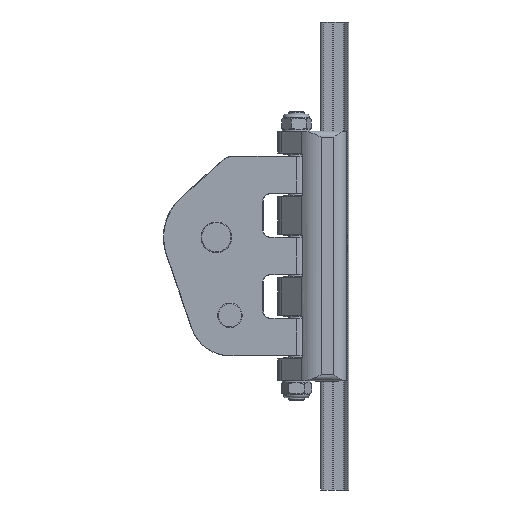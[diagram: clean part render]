
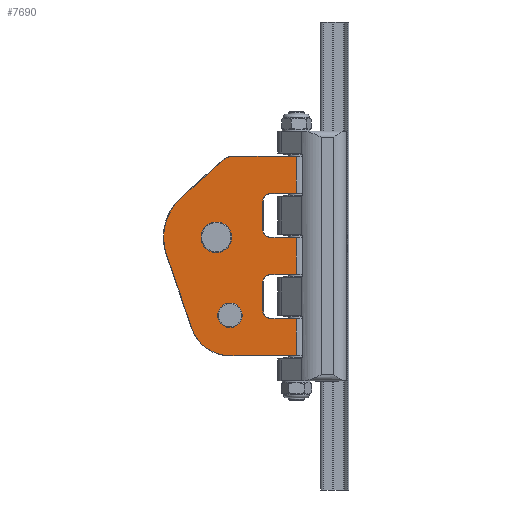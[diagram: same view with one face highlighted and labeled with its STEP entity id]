
A CAD part, left-side view. The second image highlights one B-rep face of the part: STEP entity #7690.
In plain terms, the highlighted planar face has unit normal (-1, 0, 0).
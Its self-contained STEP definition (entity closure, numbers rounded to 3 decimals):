
#310=FACE_BOUND('',#988,.T.);
#311=FACE_BOUND('',#989,.T.);
#358=PLANE('',#8160);
#541=FACE_OUTER_BOUND('',#987,.T.);
#987=EDGE_LOOP('',(#5123,#5124,#5125,#5126,#5127,#5128,#5129,#5130,#5131,
#5132,#5133,#5134,#5135,#5136,#5137,#5138,#5139,#5140,#5141,#5142));
#988=EDGE_LOOP('',(#5143,#5144));
#989=EDGE_LOOP('',(#5145,#5146));
#1481=LINE('',#11530,#2097);
#1482=LINE('',#11534,#2098);
#1483=LINE('',#11538,#2099);
#1484=LINE('',#11540,#2100);
#1485=LINE('',#11542,#2101);
#1486=LINE('',#11546,#2102);
#1487=LINE('',#11550,#2103);
#1488=LINE('',#11552,#2104);
#1489=LINE('',#11554,#2105);
#1490=LINE('',#11558,#2106);
#1491=LINE('',#11562,#2107);
#1492=LINE('',#11566,#2108);
#1493=LINE('',#11567,#2109);
#2097=VECTOR('',#9083,10.);
#2098=VECTOR('',#9086,10.);
#2099=VECTOR('',#9089,10.);
#2100=VECTOR('',#9090,10.);
#2101=VECTOR('',#9091,10.);
#2102=VECTOR('',#9094,10.);
#2103=VECTOR('',#9097,10.);
#2104=VECTOR('',#9098,10.);
#2105=VECTOR('',#9099,10.);
#2106=VECTOR('',#9102,10.);
#2107=VECTOR('',#9105,10.);
#2108=VECTOR('',#9108,10.);
#2109=VECTOR('',#9109,10.);
#2714=CIRCLE('',#8161,5.2);
#2715=CIRCLE('',#8162,5.2);
#2716=CIRCLE('',#8163,5.2);
#2717=CIRCLE('',#8164,5.2);
#2718=CIRCLE('',#8165,9.8);
#2719=CIRCLE('',#8166,33.8);
#2720=CIRCLE('',#8167,25.8);
#2721=CIRCLE('',#8168,7.425);
#2722=CIRCLE('',#8169,7.425);
#2723=CIRCLE('',#8170,9.425);
#2724=CIRCLE('',#8171,9.425);
#3165=VERTEX_POINT('',#11528);
#3166=VERTEX_POINT('',#11529);
#3167=VERTEX_POINT('',#11531);
#3168=VERTEX_POINT('',#11533);
#3169=VERTEX_POINT('',#11535);
#3170=VERTEX_POINT('',#11537);
#3171=VERTEX_POINT('',#11539);
#3172=VERTEX_POINT('',#11541);
#3173=VERTEX_POINT('',#11543);
#3174=VERTEX_POINT('',#11545);
#3175=VERTEX_POINT('',#11547);
#3176=VERTEX_POINT('',#11549);
#3177=VERTEX_POINT('',#11551);
#3178=VERTEX_POINT('',#11553);
#3179=VERTEX_POINT('',#11555);
#3180=VERTEX_POINT('',#11557);
#3181=VERTEX_POINT('',#11559);
#3182=VERTEX_POINT('',#11561);
#3183=VERTEX_POINT('',#11563);
#3184=VERTEX_POINT('',#11565);
#3185=VERTEX_POINT('',#11568);
#3186=VERTEX_POINT('',#11569);
#3187=VERTEX_POINT('',#11572);
#3188=VERTEX_POINT('',#11573);
#3925=EDGE_CURVE('',#3165,#3166,#1481,.T.);
#3926=EDGE_CURVE('',#3167,#3165,#2714,.T.);
#3927=EDGE_CURVE('',#3168,#3167,#1482,.T.);
#3928=EDGE_CURVE('',#3169,#3168,#2715,.T.);
#3929=EDGE_CURVE('',#3170,#3169,#1483,.T.);
#3930=EDGE_CURVE('',#3170,#3171,#1484,.T.);
#3931=EDGE_CURVE('',#3172,#3171,#1485,.T.);
#3932=EDGE_CURVE('',#3173,#3172,#2716,.T.);
#3933=EDGE_CURVE('',#3174,#3173,#1486,.T.);
#3934=EDGE_CURVE('',#3175,#3174,#2717,.T.);
#3935=EDGE_CURVE('',#3176,#3175,#1487,.T.);
#3936=EDGE_CURVE('',#3176,#3177,#1488,.T.);
#3937=EDGE_CURVE('',#3178,#3177,#1489,.T.);
#3938=EDGE_CURVE('',#3179,#3178,#2718,.T.);
#3939=EDGE_CURVE('',#3180,#3179,#1490,.T.);
#3940=EDGE_CURVE('',#3181,#3180,#2719,.T.);
#3941=EDGE_CURVE('',#3182,#3181,#1491,.T.);
#3942=EDGE_CURVE('',#3183,#3182,#2720,.T.);
#3943=EDGE_CURVE('',#3184,#3183,#1492,.T.);
#3944=EDGE_CURVE('',#3184,#3166,#1493,.T.);
#3945=EDGE_CURVE('',#3185,#3186,#2721,.T.);
#3946=EDGE_CURVE('',#3186,#3185,#2722,.T.);
#3947=EDGE_CURVE('',#3187,#3188,#2723,.T.);
#3948=EDGE_CURVE('',#3188,#3187,#2724,.T.);
#5123=ORIENTED_EDGE('',*,*,#3925,.F.);
#5124=ORIENTED_EDGE('',*,*,#3926,.F.);
#5125=ORIENTED_EDGE('',*,*,#3927,.F.);
#5126=ORIENTED_EDGE('',*,*,#3928,.F.);
#5127=ORIENTED_EDGE('',*,*,#3929,.F.);
#5128=ORIENTED_EDGE('',*,*,#3930,.T.);
#5129=ORIENTED_EDGE('',*,*,#3931,.F.);
#5130=ORIENTED_EDGE('',*,*,#3932,.F.);
#5131=ORIENTED_EDGE('',*,*,#3933,.F.);
#5132=ORIENTED_EDGE('',*,*,#3934,.F.);
#5133=ORIENTED_EDGE('',*,*,#3935,.F.);
#5134=ORIENTED_EDGE('',*,*,#3936,.T.);
#5135=ORIENTED_EDGE('',*,*,#3937,.F.);
#5136=ORIENTED_EDGE('',*,*,#3938,.F.);
#5137=ORIENTED_EDGE('',*,*,#3939,.F.);
#5138=ORIENTED_EDGE('',*,*,#3940,.F.);
#5139=ORIENTED_EDGE('',*,*,#3941,.F.);
#5140=ORIENTED_EDGE('',*,*,#3942,.F.);
#5141=ORIENTED_EDGE('',*,*,#3943,.F.);
#5142=ORIENTED_EDGE('',*,*,#3944,.T.);
#5143=ORIENTED_EDGE('',*,*,#3945,.T.);
#5144=ORIENTED_EDGE('',*,*,#3946,.T.);
#5145=ORIENTED_EDGE('',*,*,#3947,.T.);
#5146=ORIENTED_EDGE('',*,*,#3948,.T.);
#7690=ADVANCED_FACE('',(#541,#310,#311),#358,.F.);
#8160=AXIS2_PLACEMENT_3D('',#11527,#9081,#9082);
#8161=AXIS2_PLACEMENT_3D('',#11532,#9084,#9085);
#8162=AXIS2_PLACEMENT_3D('',#11536,#9087,#9088);
#8163=AXIS2_PLACEMENT_3D('',#11544,#9092,#9093);
#8164=AXIS2_PLACEMENT_3D('',#11548,#9095,#9096);
#8165=AXIS2_PLACEMENT_3D('',#11556,#9100,#9101);
#8166=AXIS2_PLACEMENT_3D('',#11560,#9103,#9104);
#8167=AXIS2_PLACEMENT_3D('',#11564,#9106,#9107);
#8168=AXIS2_PLACEMENT_3D('',#11570,#9110,#9111);
#8169=AXIS2_PLACEMENT_3D('',#11571,#9112,#9113);
#8170=AXIS2_PLACEMENT_3D('',#11574,#9114,#9115);
#8171=AXIS2_PLACEMENT_3D('',#11575,#9116,#9117);
#9081=DIRECTION('center_axis',(1.,0.,0.));
#9082=DIRECTION('ref_axis',(0.,-1.,0.));
#9083=DIRECTION('',(0.,-1.,0.));
#9084=DIRECTION('center_axis',(-1.,0.,0.));
#9085=DIRECTION('ref_axis',(0.,0.707,-0.707));
#9086=DIRECTION('',(0.,0.,-1.));
#9087=DIRECTION('center_axis',(-1.,0.,0.));
#9088=DIRECTION('ref_axis',(0.,0.707,0.707));
#9089=DIRECTION('',(0.,1.,0.));
#9090=DIRECTION('',(0.,0.,1.));
#9091=DIRECTION('',(0.,-1.,0.));
#9092=DIRECTION('center_axis',(-1.,0.,0.));
#9093=DIRECTION('ref_axis',(0.,0.707,-0.707));
#9094=DIRECTION('',(0.,0.,-1.));
#9095=DIRECTION('center_axis',(-1.,0.,0.));
#9096=DIRECTION('ref_axis',(0.,0.707,0.707));
#9097=DIRECTION('',(0.,1.,0.));
#9098=DIRECTION('',(0.,0.,1.));
#9099=DIRECTION('',(0.,-1.,0.));
#9100=DIRECTION('center_axis',(1.,0.,0.));
#9101=DIRECTION('ref_axis',(0.,0.361,0.933));
#9102=DIRECTION('',(0.,-0.74,0.673));
#9103=DIRECTION('center_axis',(1.,0.,0.));
#9104=DIRECTION('ref_axis',(0.,0.969,0.248));
#9105=DIRECTION('',(0.,0.325,0.946));
#9106=DIRECTION('center_axis',(1.,0.,0.));
#9107=DIRECTION('ref_axis',(0.,0.581,-0.814));
#9108=DIRECTION('',(0.,1.,0.));
#9109=DIRECTION('',(0.,0.,1.));
#9110=DIRECTION('center_axis',(1.,0.,0.));
#9111=DIRECTION('ref_axis',(0.,0.,
-1.));
#9112=DIRECTION('center_axis',(1.,0.,0.));
#9113=DIRECTION('ref_axis',(0.,0.,
-1.));
#9114=DIRECTION('center_axis',(1.,0.,0.));
#9115=DIRECTION('ref_axis',(0.,-0.819,-0.574));
#9116=DIRECTION('center_axis',(1.,0.,0.));
#9117=DIRECTION('ref_axis',(0.,-0.819,-0.574));
#11527=CARTESIAN_POINT('Origin',(-13.,5.363,0.259));
#11528=CARTESIAN_POINT('',(-13.,35.863,-40.2));
#11529=CARTESIAN_POINT('',(-13.,19.5,-40.2));
#11530=CARTESIAN_POINT('',(-13.,-9.887,-40.2));
#11531=CARTESIAN_POINT('',(-13.,41.063,-35.));
#11532=CARTESIAN_POINT('Origin',(-13.,35.863,-35.));
#11533=CARTESIAN_POINT('',(-13.,41.063,-17.));
#11534=CARTESIAN_POINT('',(-13.,41.063,-8.371));
#11535=CARTESIAN_POINT('',(-13.,35.863,-11.8));
#11536=CARTESIAN_POINT('Origin',(-13.,35.863,-17.));
#11537=CARTESIAN_POINT('',(-13.,19.5,-11.8));
#11538=CARTESIAN_POINT('',(-13.,-9.887,-11.8));
#11539=CARTESIAN_POINT('',(-13.,19.5,11.8));
#11540=CARTESIAN_POINT('',(-13.,19.5,0.129));
#11541=CARTESIAN_POINT('',(-13.,35.863,11.8));
#11542=CARTESIAN_POINT('',(-13.,-9.887,11.8));
#11543=CARTESIAN_POINT('',(-13.,41.063,17.));
#11544=CARTESIAN_POINT('Origin',(-13.,35.863,17.));
#11545=CARTESIAN_POINT('',(-13.,41.063,35.));
#11546=CARTESIAN_POINT('',(-13.,41.063,17.629));
#11547=CARTESIAN_POINT('',(-13.,35.863,40.2));
#11548=CARTESIAN_POINT('Origin',(-13.,35.863,35.));
#11549=CARTESIAN_POINT('',(-13.,19.5,40.2));
#11550=CARTESIAN_POINT('',(-13.,-9.887,40.2));
#11551=CARTESIAN_POINT('',(-13.,19.5,63.8));
#11552=CARTESIAN_POINT('',(-13.,19.5,0.129));
#11553=CARTESIAN_POINT('',(-13.,60.363,63.8));
#11554=CARTESIAN_POINT('',(-13.,32.863,63.8));
#11555=CARTESIAN_POINT('',(-13.,66.958,61.249));
#11556=CARTESIAN_POINT('Origin',(-13.,60.363,54.));
#11557=CARTESIAN_POINT('',(-13.,93.609,37.001));
#11558=CARTESIAN_POINT('',(-13.,65.288,62.768));
#11559=CARTESIAN_POINT('',(-13.,102.822,0.999));
#11560=CARTESIAN_POINT('Origin',(-13.,70.863,12.));
#11561=CARTESIAN_POINT('',(-13.,86.508,-46.397));
#11562=CARTESIAN_POINT('',(-13.,97.547,-14.328));
#11563=CARTESIAN_POINT('',(-13.,62.113,-63.8));
#11564=CARTESIAN_POINT('Origin',(-13.,62.113,-38.));
#11565=CARTESIAN_POINT('',(-13.,19.5,-63.8));
#11566=CARTESIAN_POINT('',(-13.,-23.012,-63.8));
#11567=CARTESIAN_POINT('',(-13.,19.5,0.129));
#11568=CARTESIAN_POINT('',(-13.,62.113,-45.425));
#11569=CARTESIAN_POINT('',(-13.,62.113,-30.575));
#11570=CARTESIAN_POINT('Origin',(-13.,62.113,-38.));
#11571=CARTESIAN_POINT('Origin',(-13.,62.113,-38.));
#11572=CARTESIAN_POINT('',(-13.,63.142,6.594));
#11573=CARTESIAN_POINT('',(-13.,78.583,17.406));
#11574=CARTESIAN_POINT('Origin',(-13.,70.863,12.));
#11575=CARTESIAN_POINT('Origin',(-13.,70.863,12.));
